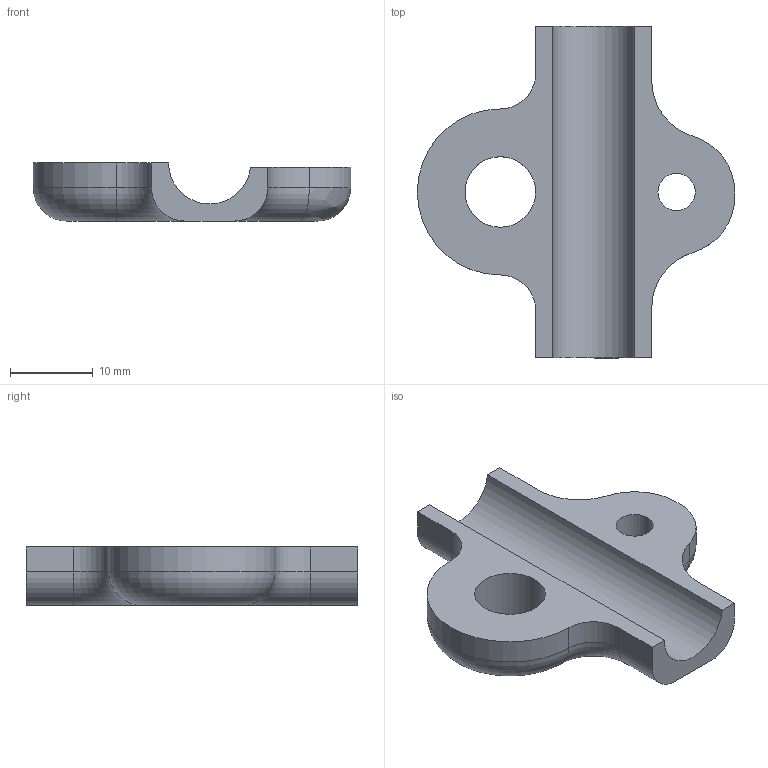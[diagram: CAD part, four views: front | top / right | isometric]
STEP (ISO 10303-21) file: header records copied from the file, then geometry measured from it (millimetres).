
FILE_DESCRIPTION((''),'2;1');
FILE_NAME('D:\Data\Documents\Studium\10.Semester\Studienarbeit\Design\Seitenhalter Oberseite.stp','2016-07-13T10:42:57',('Fabian'),(''),'Autodesk Inventor 2013','Autodesk Inventor 2013','');
FILE_SCHEMA(('AUTOMOTIVE_DESIGN { 1 0 10303 214 1 1 1 1 }'));
Length unit declared in the file: millimetre
Products named in the file (1): Seitenhalter Oberseite
Bounding box: 38.25 x 40 x 7 mm (x, y, z)
Volume: 4135.9 mm3; surface area: 2875.3 mm2
Topology: 1 solids, 1 shells, 32 faces, 102 edges, 91 vertices
Faces by surface type: cylinder 15, plane 10, torus 5, bspline 2
Full cylindrical faces by diameter (mm): 4.5 x1, 8.5 x1
Entity records: 1267 total; most frequent: CARTESIAN_POINT 233, DIRECTION 209, ORIENTED_EDGE 156, AXIS2_PLACEMENT_3D 78, EDGE_CURVE 78, VECTOR 53, LINE 53, VERTEX_POINT 50
